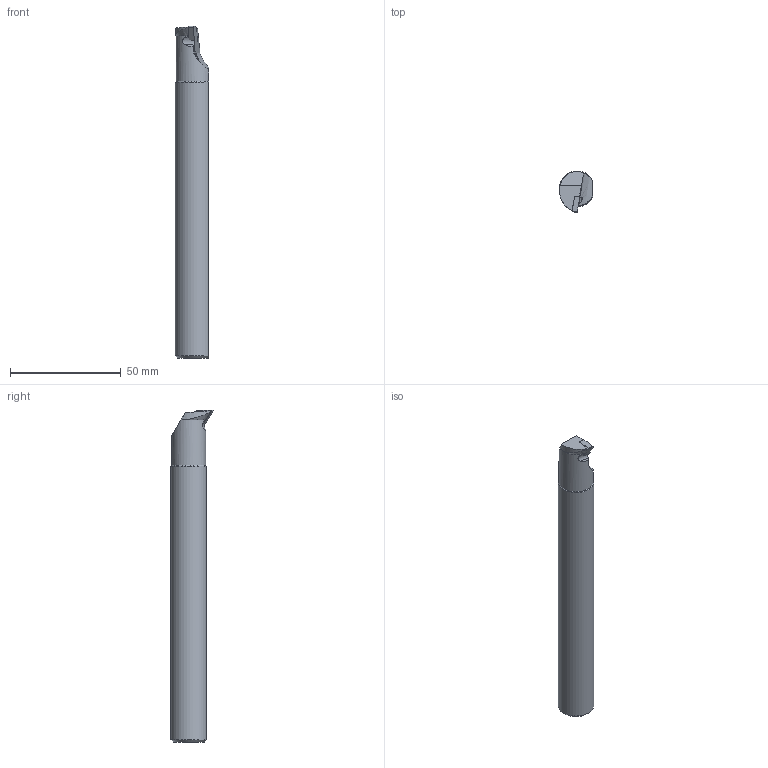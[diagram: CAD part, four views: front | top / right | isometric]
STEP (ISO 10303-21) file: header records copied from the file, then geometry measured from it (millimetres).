
FILE_DESCRIPTION(/* description */ (''),/* implementation_level */ '2;1');
FILE_NAME(/* name */ 'A16M-SDUCR-07-HAAS.stp',/* time_stamp */ '2021-09-29T11:07:05+09:00',/* author */ (''),/* organization */ (''),/* preprocessor_version */ 'ST-DEVELOPER v16',/* originating_system */ 'SIEMENS PLM Software NX 10.0',/* authorisation */ '');
FILE_SCHEMA (('AUTOMOTIVE_DESIGN { 1 0 10303 214 3 1 1 1 }'));
Length unit declared in the file: millimetre
Products named in the file (1): model2
Bounding box: 14.97 x 18.99 x 150 mm (x, y, z)
Volume: 25188.2 mm3; surface area: 9660.4 mm2
Topology: 1 solids, 1 shells, 31 faces, 78 edges, 50 vertices
Faces by surface type: plane 18, cylinder 7, cone 5, bspline 1
Full cylindrical faces by diameter (mm): 2.5 x1, 5 x1
Entity records: 1033 total; most frequent: CARTESIAN_POINT 280, ORIENTED_EDGE 150, DIRECTION 148, EDGE_CURVE 75, AXIS2_PLACEMENT_3D 54, VERTEX_POINT 49, LINE 40, VECTOR 40
